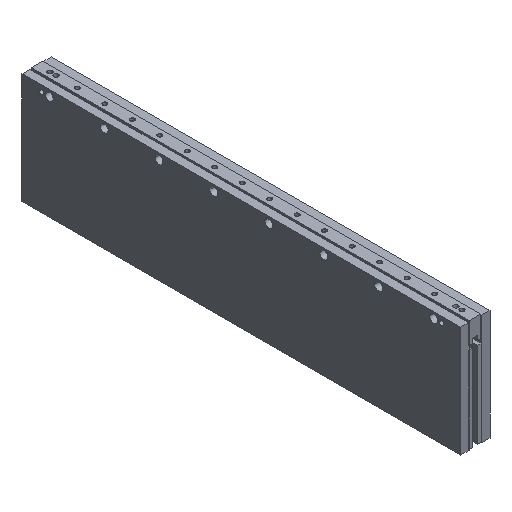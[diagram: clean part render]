
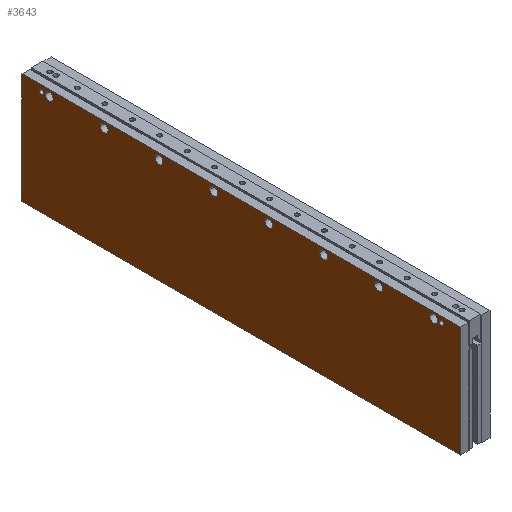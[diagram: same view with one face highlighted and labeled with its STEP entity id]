
A CAD part, isometric view. The second image highlights one B-rep face of the part: STEP entity #3643.
In plain terms, the highlighted planar face has unit normal (-1, 0, 0).
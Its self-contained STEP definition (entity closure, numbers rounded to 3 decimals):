
#709=DIRECTION('',(0.,0.,1.));
#710=VECTOR('',#709,128.97);
#711=CARTESIAN_POINT('',(-17.,255.65,-130.2));
#712=LINE('',#711,#710);
#757=DIRECTION('',(0.,0.,1.));
#758=VECTOR('',#757,128.97);
#759=CARTESIAN_POINT('',(-17.,-255.65,-130.2));
#760=LINE('',#759,#758);
#920=CARTESIAN_POINT('',(-17.,-224.,-8.23));
#921=DIRECTION('',(-1.,0.,0.));
#922=DIRECTION('',(0.,1.,0.));
#923=AXIS2_PLACEMENT_3D('',#920,#921,#922);
#925=CARTESIAN_POINT('',(-17.,-224.,-8.23));
#926=DIRECTION('',(-1.,0.,0.));
#927=DIRECTION('',(0.,-1.,0.));
#928=AXIS2_PLACEMENT_3D('',#925,#926,#927);
#930=CARTESIAN_POINT('',(-17.,-160.,-8.23));
#931=DIRECTION('',(-1.,0.,0.));
#932=DIRECTION('',(0.,1.,0.));
#933=AXIS2_PLACEMENT_3D('',#930,#931,#932);
#935=CARTESIAN_POINT('',(-17.,-160.,-8.23));
#936=DIRECTION('',(-1.,0.,0.));
#937=DIRECTION('',(0.,-1.,0.));
#938=AXIS2_PLACEMENT_3D('',#935,#936,#937);
#940=CARTESIAN_POINT('',(-17.,-96.,-8.23));
#941=DIRECTION('',(-1.,0.,0.));
#942=DIRECTION('',(0.,1.,0.));
#943=AXIS2_PLACEMENT_3D('',#940,#941,#942);
#945=CARTESIAN_POINT('',(-17.,-96.,-8.23));
#946=DIRECTION('',(-1.,0.,0.));
#947=DIRECTION('',(0.,-1.,0.));
#948=AXIS2_PLACEMENT_3D('',#945,#946,#947);
#950=CARTESIAN_POINT('',(-17.,-32.,-8.23));
#951=DIRECTION('',(-1.,0.,0.));
#952=DIRECTION('',(0.,1.,0.));
#953=AXIS2_PLACEMENT_3D('',#950,#951,#952);
#955=CARTESIAN_POINT('',(-17.,-32.,-8.23));
#956=DIRECTION('',(-1.,0.,0.));
#957=DIRECTION('',(0.,-1.,0.));
#958=AXIS2_PLACEMENT_3D('',#955,#956,#957);
#960=CARTESIAN_POINT('',(-17.,32.,-8.23));
#961=DIRECTION('',(-1.,0.,0.));
#962=DIRECTION('',(0.,1.,0.));
#963=AXIS2_PLACEMENT_3D('',#960,#961,#962);
#965=CARTESIAN_POINT('',(-17.,32.,-8.23));
#966=DIRECTION('',(-1.,0.,0.));
#967=DIRECTION('',(0.,-1.,0.));
#968=AXIS2_PLACEMENT_3D('',#965,#966,#967);
#970=CARTESIAN_POINT('',(-17.,96.,-8.23));
#971=DIRECTION('',(-1.,0.,0.));
#972=DIRECTION('',(0.,1.,0.));
#973=AXIS2_PLACEMENT_3D('',#970,#971,#972);
#975=CARTESIAN_POINT('',(-17.,96.,-8.23));
#976=DIRECTION('',(-1.,0.,0.));
#977=DIRECTION('',(0.,-1.,0.));
#978=AXIS2_PLACEMENT_3D('',#975,#976,#977);
#980=CARTESIAN_POINT('',(-17.,160.,-8.23));
#981=DIRECTION('',(-1.,0.,0.));
#982=DIRECTION('',(0.,1.,0.));
#983=AXIS2_PLACEMENT_3D('',#980,#981,#982);
#985=CARTESIAN_POINT('',(-17.,160.,-8.23));
#986=DIRECTION('',(-1.,0.,0.));
#987=DIRECTION('',(0.,-1.,0.));
#988=AXIS2_PLACEMENT_3D('',#985,#986,#987);
#990=CARTESIAN_POINT('',(-17.,224.,-8.23));
#991=DIRECTION('',(-1.,0.,0.));
#992=DIRECTION('',(0.,1.,0.));
#993=AXIS2_PLACEMENT_3D('',#990,#991,#992);
#995=CARTESIAN_POINT('',(-17.,224.,-8.23));
#996=DIRECTION('',(-1.,0.,0.));
#997=DIRECTION('',(0.,-1.,0.));
#998=AXIS2_PLACEMENT_3D('',#995,#996,#997);
#1000=CARTESIAN_POINT('',(-17.,-233.,-8.23));
#1001=DIRECTION('',(1.,0.,0.));
#1002=DIRECTION('',(0.,1.,0.));
#1003=AXIS2_PLACEMENT_3D('',#1000,#1001,#1002);
#1005=CARTESIAN_POINT('',(-17.,-233.,-8.23));
#1006=DIRECTION('',(1.,0.,0.));
#1007=DIRECTION('',(0.,-1.,0.));
#1008=AXIS2_PLACEMENT_3D('',#1005,#1006,#1007);
#1010=CARTESIAN_POINT('',(-17.,233.,-8.23));
#1011=DIRECTION('',(1.,0.,0.));
#1012=DIRECTION('',(0.,1.,0.));
#1013=AXIS2_PLACEMENT_3D('',#1010,#1011,#1012);
#1015=CARTESIAN_POINT('',(-17.,233.,-8.23));
#1016=DIRECTION('',(1.,0.,0.));
#1017=DIRECTION('',(0.,-1.,0.));
#1018=AXIS2_PLACEMENT_3D('',#1015,#1016,#1017);
#1020=DIRECTION('',(0.,1.,0.));
#1021=VECTOR('',#1020,511.3);
#1022=CARTESIAN_POINT('',(-17.,-255.65,-1.23));
#1023=LINE('',#1022,#1021);
#1024=DIRECTION('',(0.,1.,0.));
#1025=VECTOR('',#1024,511.3);
#1026=CARTESIAN_POINT('',(-17.,-255.65,-130.2));
#1027=LINE('',#1026,#1025);
#1721=CARTESIAN_POINT('',(-17.,-255.65,-130.2));
#1722=CARTESIAN_POINT('',(-17.,255.65,-130.2));
#1723=VERTEX_POINT('',#1721);
#1724=VERTEX_POINT('',#1722);
#1733=CARTESIAN_POINT('',(-17.,-230.418,-8.23));
#1734=CARTESIAN_POINT('',(-17.,-235.583,-8.23));
#1735=VERTEX_POINT('',#1733);
#1736=VERTEX_POINT('',#1734);
#1745=CARTESIAN_POINT('',(-17.,-219.325,-8.23));
#1746=CARTESIAN_POINT('',(-17.,-228.675,-8.23));
#1747=VERTEX_POINT('',#1745);
#1748=VERTEX_POINT('',#1746);
#1757=CARTESIAN_POINT('',(-17.,-255.65,-1.23));
#1758=CARTESIAN_POINT('',(-17.,255.65,-1.23));
#1759=VERTEX_POINT('',#1757);
#1760=VERTEX_POINT('',#1758);
#1817=CARTESIAN_POINT('',(-17.,235.583,-8.23));
#1818=CARTESIAN_POINT('',(-17.,230.418,-8.23));
#1819=VERTEX_POINT('',#1817);
#1820=VERTEX_POINT('',#1818);
#1845=CARTESIAN_POINT('',(-17.,-155.325,-8.23));
#1846=CARTESIAN_POINT('',(-17.,-164.675,-8.23));
#1847=VERTEX_POINT('',#1845);
#1848=VERTEX_POINT('',#1846);
#1857=CARTESIAN_POINT('',(-17.,-91.325,-8.23));
#1858=CARTESIAN_POINT('',(-17.,-100.675,-8.23));
#1859=VERTEX_POINT('',#1857);
#1860=VERTEX_POINT('',#1858);
#1869=CARTESIAN_POINT('',(-17.,-27.325,-8.23));
#1870=CARTESIAN_POINT('',(-17.,-36.675,-8.23));
#1871=VERTEX_POINT('',#1869);
#1872=VERTEX_POINT('',#1870);
#1881=CARTESIAN_POINT('',(-17.,36.675,-8.23));
#1882=CARTESIAN_POINT('',(-17.,27.325,-8.23));
#1883=VERTEX_POINT('',#1881);
#1884=VERTEX_POINT('',#1882);
#1893=CARTESIAN_POINT('',(-17.,100.675,-8.23));
#1894=CARTESIAN_POINT('',(-17.,91.325,-8.23));
#1895=VERTEX_POINT('',#1893);
#1896=VERTEX_POINT('',#1894);
#1905=CARTESIAN_POINT('',(-17.,164.675,-8.23));
#1906=CARTESIAN_POINT('',(-17.,155.325,-8.23));
#1907=VERTEX_POINT('',#1905);
#1908=VERTEX_POINT('',#1906);
#1917=CARTESIAN_POINT('',(-17.,228.675,-8.23));
#1918=CARTESIAN_POINT('',(-17.,219.325,-8.23));
#1919=VERTEX_POINT('',#1917);
#1920=VERTEX_POINT('',#1918);
#3571=CARTESIAN_POINT('',(-17.,-255.65,-130.2));
#3572=DIRECTION('',(-1.,0.,0.));
#3573=DIRECTION('',(0.,0.,1.));
#3574=AXIS2_PLACEMENT_3D('',#3571,#3572,#3573);
#3575=PLANE('',#3574);
#3577=ORIENTED_EDGE('',*,*,#3576,.F.);
#3578=ORIENTED_EDGE('',*,*,#3375,.F.);
#3580=ORIENTED_EDGE('',*,*,#3579,.T.);
#3581=ORIENTED_EDGE('',*,*,#3311,.T.);
#3582=EDGE_LOOP('',(#3577,#3578,#3580,#3581));
#3583=FACE_OUTER_BOUND('',#3582,.F.);
#3584=ORIENTED_EDGE('',*,*,#3561,.T.);
#3586=ORIENTED_EDGE('',*,*,#3585,.T.);
#3587=EDGE_LOOP('',(#3584,#3586));
#3588=FACE_BOUND('',#3587,.F.);
#3590=ORIENTED_EDGE('',*,*,#3589,.T.);
#3592=ORIENTED_EDGE('',*,*,#3591,.T.);
#3593=EDGE_LOOP('',(#3590,#3592));
#3594=FACE_BOUND('',#3593,.F.);
#3596=ORIENTED_EDGE('',*,*,#3595,.T.);
#3598=ORIENTED_EDGE('',*,*,#3597,.T.);
#3599=EDGE_LOOP('',(#3596,#3598));
#3600=FACE_BOUND('',#3599,.F.);
#3602=ORIENTED_EDGE('',*,*,#3601,.T.);
#3604=ORIENTED_EDGE('',*,*,#3603,.T.);
#3605=EDGE_LOOP('',(#3602,#3604));
#3606=FACE_BOUND('',#3605,.F.);
#3608=ORIENTED_EDGE('',*,*,#3607,.T.);
#3610=ORIENTED_EDGE('',*,*,#3609,.T.);
#3611=EDGE_LOOP('',(#3608,#3610));
#3612=FACE_BOUND('',#3611,.F.);
#3614=ORIENTED_EDGE('',*,*,#3613,.T.);
#3616=ORIENTED_EDGE('',*,*,#3615,.T.);
#3617=EDGE_LOOP('',(#3614,#3616));
#3618=FACE_BOUND('',#3617,.F.);
#3620=ORIENTED_EDGE('',*,*,#3619,.T.);
#3622=ORIENTED_EDGE('',*,*,#3621,.T.);
#3623=EDGE_LOOP('',(#3620,#3622));
#3624=FACE_BOUND('',#3623,.F.);
#3626=ORIENTED_EDGE('',*,*,#3625,.T.);
#3628=ORIENTED_EDGE('',*,*,#3627,.T.);
#3629=EDGE_LOOP('',(#3626,#3628));
#3630=FACE_BOUND('',#3629,.F.);
#3632=ORIENTED_EDGE('',*,*,#3631,.F.);
#3634=ORIENTED_EDGE('',*,*,#3633,.F.);
#3635=EDGE_LOOP('',(#3632,#3634));
#3636=FACE_BOUND('',#3635,.F.);
#3638=ORIENTED_EDGE('',*,*,#3637,.F.);
#3640=ORIENTED_EDGE('',*,*,#3639,.F.);
#3641=EDGE_LOOP('',(#3638,#3640));
#3642=FACE_BOUND('',#3641,.F.);
#3643=ADVANCED_FACE('',(#3583,#3588,#3594,#3600,#3606,#3612,#3618,#3624,#3630,
#3636,#3642),#3575,.T.);
#924=CIRCLE('',#923,4.675);
#929=CIRCLE('',#928,4.675);
#934=CIRCLE('',#933,4.675);
#939=CIRCLE('',#938,4.675);
#944=CIRCLE('',#943,4.675);
#949=CIRCLE('',#948,4.675);
#954=CIRCLE('',#953,4.675);
#959=CIRCLE('',#958,4.675);
#964=CIRCLE('',#963,4.675);
#969=CIRCLE('',#968,4.675);
#974=CIRCLE('',#973,4.675);
#979=CIRCLE('',#978,4.675);
#984=CIRCLE('',#983,4.675);
#989=CIRCLE('',#988,4.675);
#994=CIRCLE('',#993,4.675);
#999=CIRCLE('',#998,4.675);
#1004=CIRCLE('',#1003,2.583);
#1009=CIRCLE('',#1008,2.583);
#1014=CIRCLE('',#1013,2.583);
#1019=CIRCLE('',#1018,2.583);
#3311=EDGE_CURVE('',#1724,#1760,#712,.T.);
#3375=EDGE_CURVE('',#1723,#1759,#760,.T.);
#3561=EDGE_CURVE('',#1747,#1748,#924,.T.);
#3576=EDGE_CURVE('',#1759,#1760,#1023,.T.);
#3579=EDGE_CURVE('',#1723,#1724,#1027,.T.);
#3585=EDGE_CURVE('',#1748,#1747,#929,.T.);
#3589=EDGE_CURVE('',#1847,#1848,#934,.T.);
#3591=EDGE_CURVE('',#1848,#1847,#939,.T.);
#3595=EDGE_CURVE('',#1859,#1860,#944,.T.);
#3597=EDGE_CURVE('',#1860,#1859,#949,.T.);
#3601=EDGE_CURVE('',#1871,#1872,#954,.T.);
#3603=EDGE_CURVE('',#1872,#1871,#959,.T.);
#3607=EDGE_CURVE('',#1883,#1884,#964,.T.);
#3609=EDGE_CURVE('',#1884,#1883,#969,.T.);
#3613=EDGE_CURVE('',#1895,#1896,#974,.T.);
#3615=EDGE_CURVE('',#1896,#1895,#979,.T.);
#3619=EDGE_CURVE('',#1907,#1908,#984,.T.);
#3621=EDGE_CURVE('',#1908,#1907,#989,.T.);
#3625=EDGE_CURVE('',#1919,#1920,#994,.T.);
#3627=EDGE_CURVE('',#1920,#1919,#999,.T.);
#3631=EDGE_CURVE('',#1735,#1736,#1004,.T.);
#3633=EDGE_CURVE('',#1736,#1735,#1009,.T.);
#3637=EDGE_CURVE('',#1819,#1820,#1014,.T.);
#3639=EDGE_CURVE('',#1820,#1819,#1019,.T.);
